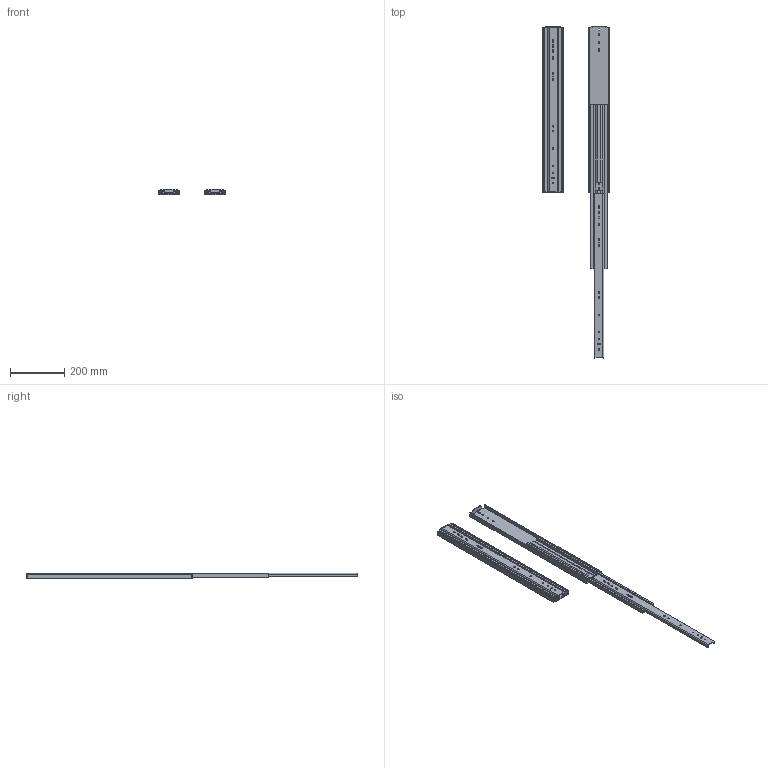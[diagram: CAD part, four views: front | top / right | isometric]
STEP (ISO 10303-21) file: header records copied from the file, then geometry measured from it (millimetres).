
FILE_DESCRIPTION((''),'2;1');
FILE_NAME('ASSEM1_1_2_3_4_5_6_7_8_ASM','2026-04-07T16:40:00',('T260078'),(''),'CREO PARAMETRIC BY PTC INC, 2025123','CREO PARAMETRIC BY PTC INC, 2025123','');
FILE_SCHEMA(('CONFIG_CONTROL_DESIGN','SHAPE_APPEARANCE_LAYERS_GROUPS'));
Length unit declared in the file: millimetre
Products named in the file (6): 76J01-24_X2_540B_X0_-M; 76J01-24_X2_540B_X0_-I; 76J01-24_X2_540B_X0_-O; 76J01-24_X2_540_X0__ASM; 76J01-24_X2_540B_X0_-_X2_5C5595_ASM; ASSEM1_1_2_3_4_5_6_7_8_ASM
Assembly tree (8 placements, depth 3):
  ASSEM1_1_2_3_4_5_6_7_8_ASM
    76J01-24_X2_540_X0__ASM
      76J01-24_X2_540B_X0_-M
      76J01-24_X2_540B_X0_-I
      76J01-24_X2_540B_X0_-O
    76J01-24_X2_540B_X0_-_X2_5C5595_ASM
      76J01-24_X2_540B_X0_-M
      76J01-24_X2_540B_X0_-I
      76J01-24_X2_540B_X0_-O
Bounding box: 245.44 x 1219.2 x 19.3 mm (x, y, z)
Volume: 744877.6 mm3; surface area: 666946.2 mm2
Topology: 6 solids, 6 shells, 388 faces, 1234 edges, 846 vertices
Faces by surface type: plane 200, cylinder 188
Entity records: 8398 total; most frequent: CARTESIAN_POINT 1279, DIRECTION 1254, ORIENTED_EDGE 1234, EDGE_CURVE 617, AXIS2_PLACEMENT_3D 431, VERTEX_POINT 423, VECTOR 392, LINE 392
